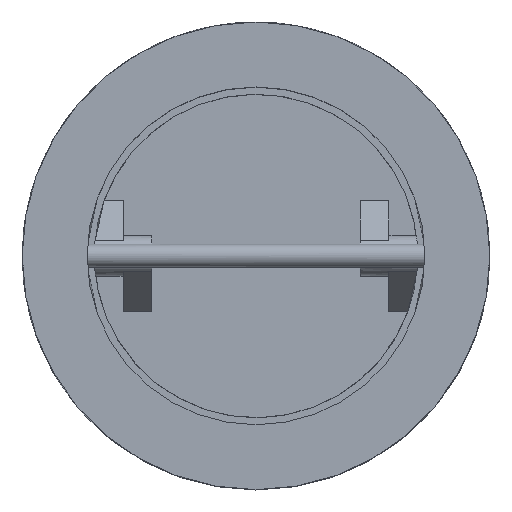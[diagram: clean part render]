
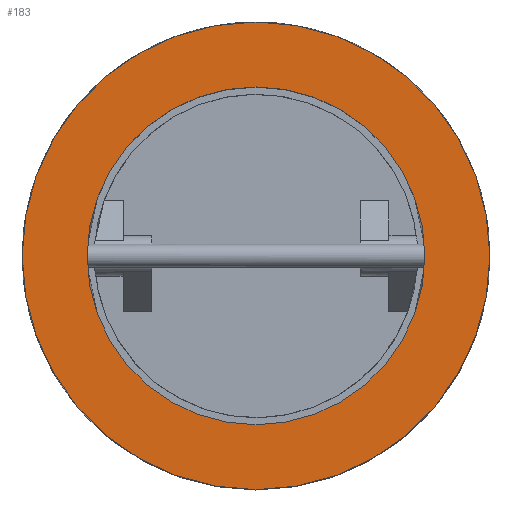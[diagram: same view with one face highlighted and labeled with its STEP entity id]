
A CAD part, top view. The second image highlights one B-rep face of the part: STEP entity #183.
In plain terms, the highlighted planar face has unit normal (0, 0, 1).
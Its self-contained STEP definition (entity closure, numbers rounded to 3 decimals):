
#183=ADVANCED_FACE('',(#822,#824),#826,.T.);
#822=FACE_BOUND('',#823,.T.);
#823=EDGE_LOOP('',(#1339));
#824=FACE_BOUND('',#825,.T.);
#825=EDGE_LOOP('',(#1340));
#826=PLANE('',#827);
#827=AXIS2_PLACEMENT_3D('',#828,#829,#830);
#828=CARTESIAN_POINT('',(0.,0.,64.));
#829=DIRECTION('',(0.,0.,1.));
#830=DIRECTION('',(0.,-1.,0.));
#1339=ORIENTED_EDGE('',*,*,#1681,.T.);
#1340=ORIENTED_EDGE('',*,*,#1691,.F.);
#1681=EDGE_CURVE('',#1899,#1899,#1900,.T.);
#1691=EDGE_CURVE('',#1919,#1919,#1920,.T.);
#1899=VERTEX_POINT('',#2306);
#1900=CIRCLE('',#2307,81.);
#1919=VERTEX_POINT('',#2352);
#1920=CIRCLE('',#2353,58.5);
#2306=CARTESIAN_POINT('',(0.,-81.,64.));
#2307=AXIS2_PLACEMENT_3D('',#2308,#2309,#2310);
#2308=CARTESIAN_POINT('',(0.,0.,64.));
#2309=DIRECTION('',(0.,0.,1.));
#2310=DIRECTION('',(0.,-1.,0.));
#2352=CARTESIAN_POINT('',(0.,-58.5,64.));
#2353=AXIS2_PLACEMENT_3D('',#2354,#2355,#2356);
#2354=CARTESIAN_POINT('',(0.,0.,64.));
#2355=DIRECTION('',(0.,0.,1.));
#2356=DIRECTION('',(0.,-1.,0.));
